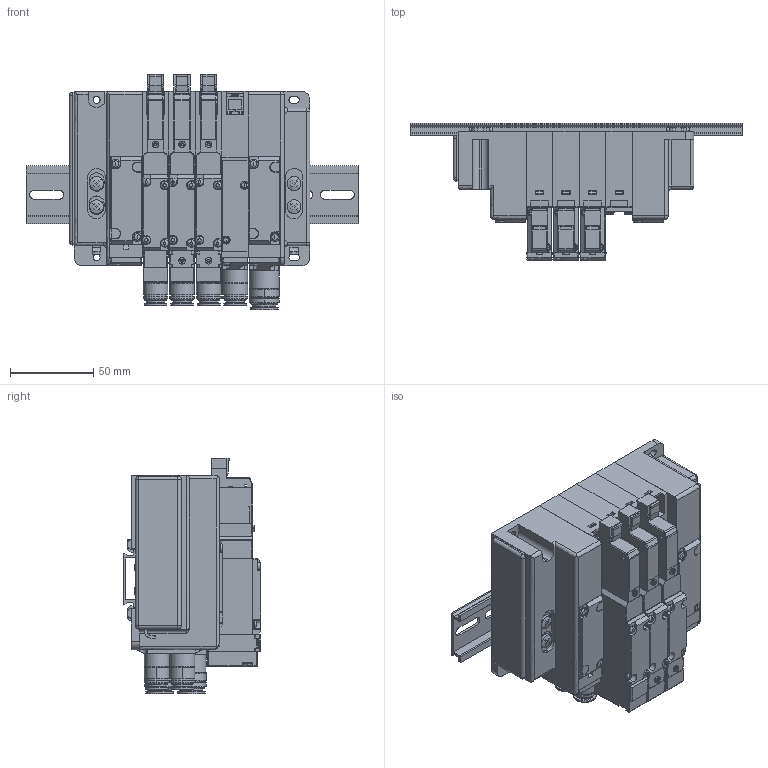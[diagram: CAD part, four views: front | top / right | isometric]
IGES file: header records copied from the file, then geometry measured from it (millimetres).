
Start section: ------------------------------------------------------------------------
Global section: file name: D:\ICADMX\tmp\trans3d_spg\CVICAD02.5220.F15M4XNJ-JR-DR_16364.igs; native system: spGate; preprocessor: ver12.6.6; author: Unknown; organization: Unknown; date: 210712.184651; units: millimetre
Bounding box: 200 x 83 x 142.1 mm (x, y, z)
Volume: 821242.5 mm3; surface area: 230516.2 mm2
Topology: 38 solids, 38 shells, 3678 faces, 9541 edges, 6132 vertices
Faces by surface type: bspline 3678
